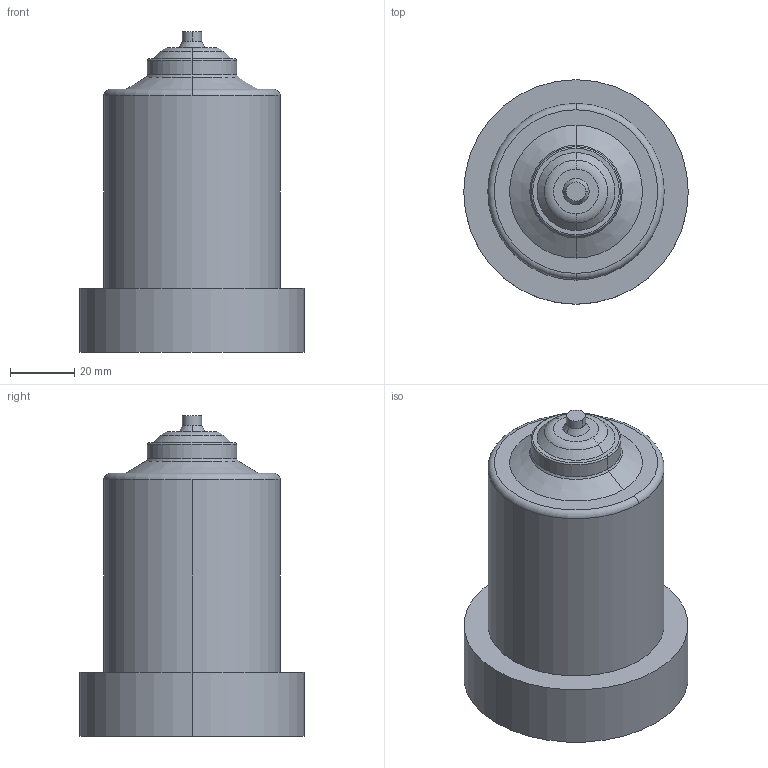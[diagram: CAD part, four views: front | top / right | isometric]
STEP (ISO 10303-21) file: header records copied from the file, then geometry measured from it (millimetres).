
FILE_DESCRIPTION (( 'STEP AP214' ), '1' );
FILE_NAME ('22E-06-100-VSW.STEP', '2022-01-10T08:54:52', ( '' ), ( '' ), 'SwSTEP 2.0', 'SolidWorks 2018', '' );
FILE_SCHEMA (( 'AUTOMOTIVE_DESIGN' ));
Length unit declared in the file: millimetre
Products named in the file (2): cutout_22E-06-100-VSW; 22E-06-100-VSW
Assembly tree (1 placements, depth 2):
  22E-06-100-VSW
    cutout_22E-06-100-VSW
Bounding box: 70 x 70 x 100 mm (x, y, z)
Volume: 232714 mm3; surface area: 23398.7 mm2
Topology: 1 solids, 1 shells, 28 faces, 58 edges, 36 vertices
Faces by surface type: cylinder 8, cone 8, torus 6, plane 6
Entity records: 826 total; most frequent: DIRECTION 164, CARTESIAN_POINT 126, ORIENTED_EDGE 116, AXIS2_PLACEMENT_3D 74, EDGE_CURVE 58, CIRCLE 42, VERTEX_POINT 36, EDGE_LOOP 32
